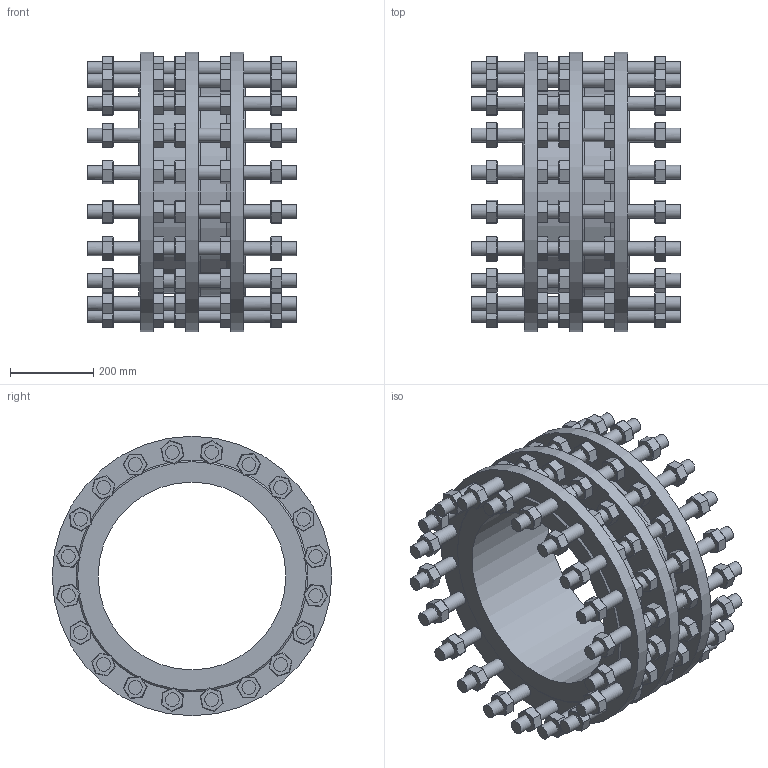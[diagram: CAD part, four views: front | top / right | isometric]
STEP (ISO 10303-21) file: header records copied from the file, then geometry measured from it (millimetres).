
FILE_DESCRIPTION (( 'STEP AP203' ), '1' );
FILE_NAME ('873045000741000.STEP', '2021-11-05T09:46:33', ( '' ), ( '' ), 'SwSTEP 2.0', 'SolidWorks 2020', '' );
FILE_SCHEMA (( 'CONFIG_CONTROL_DESIGN' ));
Products named in the file (1): 873045000741000
Bounding box: 500 x 670 x 670 mm (x, y, z)
Volume: 34337635.4 mm3; surface area: 3571989.6 mm2
Topology: 101 solids, 101 shells, 2439 faces, 5247 edges, 3057 vertices
Faces by surface type: plane 2049, cone 203, cylinder 187
Full cylindrical faces by diameter (mm): 28 x100, 33 x80, 450 x1, 485 x1, 500 x1, 516 x1, 670 x3
Entity records: 61225 total; most frequent: DIRECTION 10238, CARTESIAN_POINT 10198, ORIENTED_EDGE 9558, EDGE_CURVE 4779, LINE 4200, VECTOR 4200, EDGE_LOOP 3158, AXIS2_PLACEMENT_3D 3019
